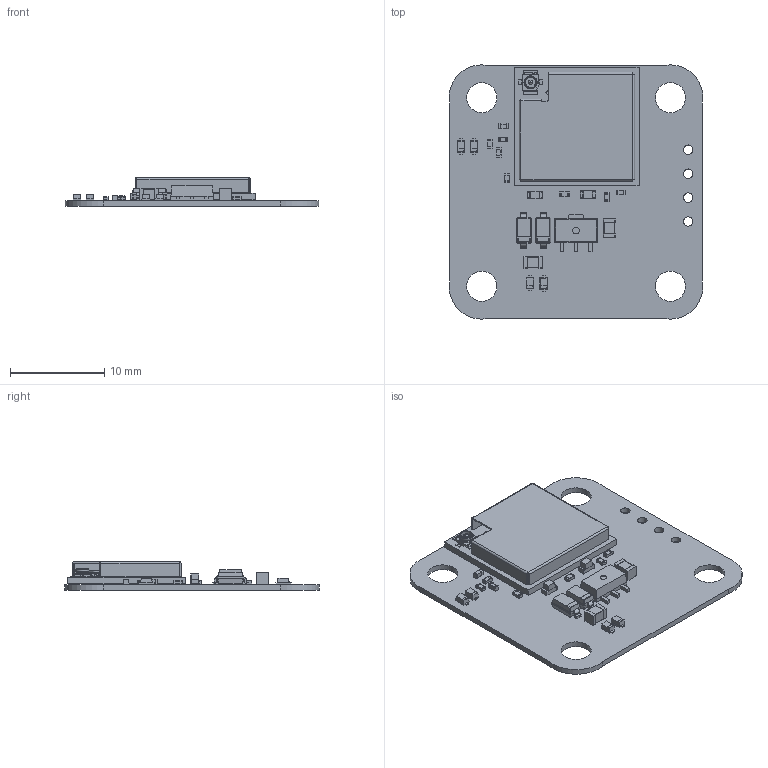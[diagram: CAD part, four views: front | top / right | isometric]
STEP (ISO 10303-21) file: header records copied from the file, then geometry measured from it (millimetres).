
FILE_DESCRIPTION(('KiCad electronic assembly'),'2;1');
FILE_NAME('db152.step','2024-06-26T21:24:57',('Pcbnew'),('Kicad'), 'Open CASCADE STEP processor 7.7','KiCad to STEP converter','Unknown' );
FILE_SCHEMA(('AUTOMOTIVE_DESIGN { 1 0 10303 214 1 1 1 1 }'));
Length unit declared in the file: millimetre
Products named in the file (18): db152 1; D_SOD-523; D_SOD_523; R_0402_1005Metric; D_SOD-123; D_SOD_123; C_0805_2012Metric; ESP32-C3-MINI-1U; ESP32-C3-MINI-1U_20210906; C_0402_1005Metric; LED_0603_1608Metric; SOT-89-3; CQ assembly; dronebeacon_PCB
Assembly tree (29 placements, depth 3):
  db152 1
    D_SOD-523  x4
      D_SOD_523
    R_0402_1005Metric  x6
      R_0402_1005Metric
    D_SOD-123  x2
      D_SOD_123
    C_0805_2012Metric  x2
      C_0805_2012Metric
    ESP32-C3-MINI-1U
      ESP32-C3-MINI-1U_20210906
    C_0402_1005Metric  x2
      C_0402_1005Metric
    LED_0603_1608Metric  x2
      LED_0603_1608Metric
    SOT-89-3
      CQ assembly
    dronebeacon_PCB
Bounding box: 26.9 x 26.95 x 3.05 mm (x, y, z)
Volume: 623.9 mm3; surface area: 2696.8 mm2
Topology: 204 solids, 205 shells, 2997 faces, 7124 edges, 4496 vertices
Faces by surface type: plane 2038, cylinder 686, bspline 146, sphere 112, cone 9, torus 4, revolution 2
Full cylindrical faces by diameter (mm): 0.7 x1, 1 x4, 3.2 x4
Entity records: 79948 total; most frequent: CARTESIAN_POINT 16802, DIRECTION 12212, ORIENTED_EDGE 12118, EDGE_CURVE 6059, LINE 4670, VECTOR 4670, VERTEX_POINT 3894, AXIS2_PLACEMENT_3D 3770
